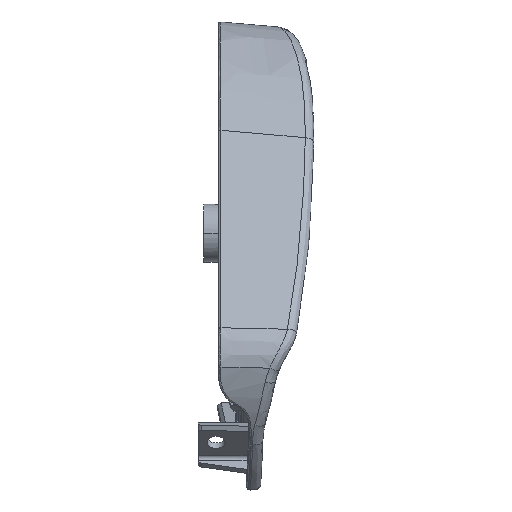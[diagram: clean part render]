
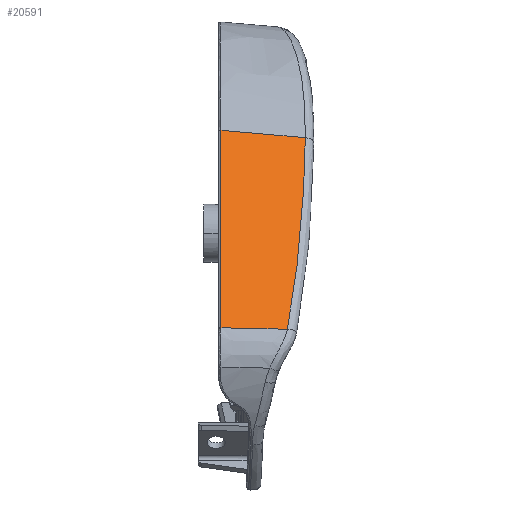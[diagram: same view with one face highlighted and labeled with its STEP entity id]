
A CAD part, left-side view. The second image highlights one B-rep face of the part: STEP entity #20591.
In plain terms, the highlighted planar face has unit normal (-0.824, -0.087, 0.56).
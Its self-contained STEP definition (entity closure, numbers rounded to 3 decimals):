
#20514=AXIS2_PLACEMENT_3D('Plane Axis2P3D',#20511,#20512,#20513) ;
#10713=CARTESIAN_POINT('Vertex',(-100.917,-971.366,608.751)) ;
#10756=CARTESIAN_POINT('Vertex',(-137.933,-971.366,554.29)) ;
#10759=CARTESIAN_POINT('Line Origine',(-113.93,-971.366,589.605)) ;
#20475=CARTESIAN_POINT('Control Point',(-100.895,-971.822,608.711)) ;
#20476=CARTESIAN_POINT('Control Point',(-100.9,-971.731,608.719)) ;
#20477=CARTESIAN_POINT('Control Point',(-100.904,-971.639,608.727)) ;
#20478=CARTESIAN_POINT('Control Point',(-100.908,-971.548,608.735)) ;
#20479=CARTESIAN_POINT('Control Point',(-100.912,-971.457,608.743)) ;
#20480=CARTESIAN_POINT('Control Point',(-100.917,-971.366,608.751)) ;
#20481=CARTESIAN_POINT('Vertex',(-100.895,-971.822,608.711)) ;
#20485=CARTESIAN_POINT('Control Point',(-99.836,-994.69,606.71)) ;
#20486=CARTESIAN_POINT('Control Point',(-100.048,-990.116,607.111)) ;
#20487=CARTESIAN_POINT('Control Point',(-100.26,-985.543,607.511)) ;
#20488=CARTESIAN_POINT('Control Point',(-100.472,-980.969,607.911)) ;
#20489=CARTESIAN_POINT('Control Point',(-100.684,-976.396,608.311)) ;
#20490=CARTESIAN_POINT('Control Point',(-100.895,-971.822,608.711)) ;
#20491=CARTESIAN_POINT('Vertex',(-99.836,-994.69,606.71)) ;
#20511=CARTESIAN_POINT('Axis2P3D Location',(-83.036,-924.773,642.311)) ;
#20517=CARTESIAN_POINT('Control Point',(-137.933,-971.366,554.29)) ;
#20518=CARTESIAN_POINT('Control Point',(-137.925,-971.457,554.288)) ;
#20519=CARTESIAN_POINT('Control Point',(-137.916,-971.548,554.286)) ;
#20520=CARTESIAN_POINT('Control Point',(-137.908,-971.639,554.284)) ;
#20521=CARTESIAN_POINT('Control Point',(-137.9,-971.731,554.282)) ;
#20522=CARTESIAN_POINT('Control Point',(-137.892,-971.822,554.28)) ;
#20523=CARTESIAN_POINT('Vertex',(-137.892,-971.822,554.28)) ;
#20527=CARTESIAN_POINT('Control Point',(-137.892,-971.822,554.28)) ;
#20528=CARTESIAN_POINT('Control Point',(-137.861,-972.155,554.272)) ;
#20529=CARTESIAN_POINT('Control Point',(-137.832,-972.48,554.265)) ;
#20530=CARTESIAN_POINT('Control Point',(-137.803,-972.795,554.258)) ;
#20531=CARTESIAN_POINT('Control Point',(-137.664,-974.326,554.225)) ;
#20532=CARTESIAN_POINT('Control Point',(-137.525,-975.856,554.192)) ;
#20533=CARTESIAN_POINT('Control Point',(-137.139,-980.089,554.1)) ;
#20534=CARTESIAN_POINT('Control Point',(-136.897,-982.752,554.042)) ;
#20535=CARTESIAN_POINT('Control Point',(-136.655,-985.414,553.984)) ;
#20536=CARTESIAN_POINT('Control Point',(-136.523,-986.857,553.953)) ;
#20537=CARTESIAN_POINT('Control Point',(-136.392,-988.3,553.921)) ;
#20538=CARTESIAN_POINT('Control Point',(-136.261,-989.743,553.89)) ;
#20539=CARTESIAN_POINT('Vertex',(-136.261,-989.743,553.89)) ;
#20543=CARTESIAN_POINT('Control Point',(-136.26,-989.744,553.89)) ;
#20544=CARTESIAN_POINT('Control Point',(-133.844,-990.398,557.344)) ;
#20545=CARTESIAN_POINT('Control Point',(-131.431,-990.988,560.802)) ;
#20546=CARTESIAN_POINT('Control Point',(-129.003,-991.52,564.292)) ;
#20547=CARTESIAN_POINT('Control Point',(-126.545,-991.999,567.833)) ;
#20548=CARTESIAN_POINT('Control Point',(-124.045,-992.43,571.444)) ;
#20549=CARTESIAN_POINT('Vertex',(-124.045,-992.43,571.444)) ;
#20553=CARTESIAN_POINT('Control Point',(-124.045,-992.43,571.444)) ;
#20554=CARTESIAN_POINT('Control Point',(-121.33,-992.898,575.366)) ;
#20555=CARTESIAN_POINT('Control Point',(-118.608,-993.303,579.308)) ;
#20556=CARTESIAN_POINT('Control Point',(-115.875,-993.644,583.276)) ;
#20557=CARTESIAN_POINT('Control Point',(-113.13,-993.925,587.271)) ;
#20558=CARTESIAN_POINT('Control Point',(-110.369,-994.147,591.299)) ;
#20559=CARTESIAN_POINT('Vertex',(-110.369,-994.146,591.299)) ;
#20563=CARTESIAN_POINT('Control Point',(-110.369,-994.147,591.299)) ;
#20564=CARTESIAN_POINT('Control Point',(-109.315,-994.231,592.835)) ;
#20565=CARTESIAN_POINT('Control Point',(-108.272,-994.307,594.359)) ;
#20566=CARTESIAN_POINT('Control Point',(-107.228,-994.374,595.884)) ;
#20567=CARTESIAN_POINT('Control Point',(-106.173,-994.434,597.427)) ;
#20568=CARTESIAN_POINT('Control Point',(-105.099,-994.488,598.999)) ;
#20569=CARTESIAN_POINT('Vertex',(-105.099,-994.485,599.)) ;
#20573=CARTESIAN_POINT('Control Point',(-105.099,-994.488,598.999)) ;
#20574=CARTESIAN_POINT('Control Point',(-104.045,-994.54,600.541)) ;
#20575=CARTESIAN_POINT('Control Point',(-102.993,-994.585,602.083)) ;
#20576=CARTESIAN_POINT('Control Point',(-101.94,-994.625,603.625)) ;
#20577=CARTESIAN_POINT('Control Point',(-100.888,-994.659,605.168)) ;
#20578=CARTESIAN_POINT('Control Point',(-99.836,-994.69,606.71)) ;
#10760=DIRECTION('Vector Direction',(-0.562,0.,-0.827)) ;
#20512=DIRECTION('Axis2P3D Direction',(0.824,0.087,-0.56)) ;
#20513=DIRECTION('Axis2P3D XDirection',(0.072,-0.996,-0.049)) ;
#10761=VECTOR('Line Direction',#10760,1.) ;
#20581=ORIENTED_EDGE('',*,*,#10763,.T.) ;
#20582=ORIENTED_EDGE('',*,*,#20525,.T.) ;
#20583=ORIENTED_EDGE('',*,*,#20541,.T.) ;
#20584=ORIENTED_EDGE('',*,*,#20551,.T.) ;
#20585=ORIENTED_EDGE('',*,*,#20561,.T.) ;
#20586=ORIENTED_EDGE('',*,*,#20571,.T.) ;
#20587=ORIENTED_EDGE('',*,*,#20579,.T.) ;
#20588=ORIENTED_EDGE('',*,*,#20493,.F.) ;
#20589=ORIENTED_EDGE('',*,*,#20483,.T.) ;
#20591=ADVANCED_FACE('01',(#20590),#20515,.F.) ;
#20516=B_SPLINE_CURVE_WITH_KNOTS('',5,(#20517,#20518,#20519,#20520,#20521,#20522),.UNSPECIFIED.,.F.,.U.,(6,6),(2.696,3.301),.UNSPECIFIED.) ;
#20526=B_SPLINE_CURVE_WITH_KNOTS('',5,(#20527,#20528,#20529,#20530,#20531,#20532,#20533,#20534,#20535,#20536,#20537,#20538),.UNSPECIFIED.,.F.,.U.,(6,3,3,6),(0.643,3.353,13.956,26.509),.UNSPECIFIED.) ;
#20542=B_SPLINE_CURVE_WITH_KNOTS('',5,(#20543,#20544,#20545,#20546,#20547,#20548),.UNSPECIFIED.,.F.,.U.,(6,6),(0.,31.345),.UNSPECIFIED.) ;
#20552=B_SPLINE_CURVE_WITH_KNOTS('',5,(#20553,#20554,#20555,#20556,#20557,#20558),.UNSPECIFIED.,.F.,.U.,(6,6),(0.,34.045),.UNSPECIFIED.) ;
#20562=B_SPLINE_CURVE_WITH_KNOTS('',5,(#20563,#20564,#20565,#20566,#20567,#20568),.UNSPECIFIED.,.F.,.U.,(6,6),(0.,12.988),.UNSPECIFIED.) ;
#20572=B_SPLINE_CURVE_WITH_KNOTS('',5,(#20573,#20574,#20575,#20576,#20577,#20578),.UNSPECIFIED.,.F.,.U.,(6,6),(0.,12.729),.UNSPECIFIED.) ;
#10763=EDGE_CURVE('',#10714,#10757,#10762,.T.) ;
#20483=EDGE_CURVE('',#20482,#10714,#20474,.T.) ;
#20493=EDGE_CURVE('',#20482,#20492,#20484,.F.) ;
#20525=EDGE_CURVE('',#10757,#20524,#20516,.T.) ;
#20541=EDGE_CURVE('',#20524,#20540,#20526,.T.) ;
#20551=EDGE_CURVE('',#20540,#20550,#20542,.T.) ;
#20561=EDGE_CURVE('',#20550,#20560,#20552,.T.) ;
#20571=EDGE_CURVE('',#20560,#20570,#20562,.T.) ;
#20579=EDGE_CURVE('',#20570,#20492,#20572,.T.) ;
#20580=EDGE_LOOP('',(#20581,#20582,#20583,#20584,#20585,#20586,#20587,#20588,#20589)) ;
#20590=FACE_OUTER_BOUND('',#20580,.T.) ;
#10762=LINE('Line',#10759,#10761) ;
#20515=PLANE('',#20514) ;
#10714=VERTEX_POINT('',#10713) ;
#10757=VERTEX_POINT('',#10756) ;
#20482=VERTEX_POINT('',#20481) ;
#20492=VERTEX_POINT('',#20491) ;
#20524=VERTEX_POINT('',#20523) ;
#20540=VERTEX_POINT('',#20539) ;
#20550=VERTEX_POINT('',#20549) ;
#20560=VERTEX_POINT('',#20559) ;
#20570=VERTEX_POINT('',#20569) ;
#20474=(BOUNDED_CURVE()B_SPLINE_CURVE(5,(#20475,#20476,#20477,#20478,#20479,#20480),.UNSPECIFIED.,.F.,.U.)B_SPLINE_CURVE_WITH_KNOTS((6,6),(20.293,20.698),.UNSPECIFIED.)CURVE()GEOMETRIC_REPRESENTATION_ITEM()RATIONAL_B_SPLINE_CURVE((1.,1.,1.,1.,1.,1.))REPRESENTATION_ITEM('')) ;
#20484=(BOUNDED_CURVE()B_SPLINE_CURVE(5,(#20485,#20486,#20487,#20488,#20489,#20490),.UNSPECIFIED.,.F.,.U.)B_SPLINE_CURVE_WITH_KNOTS((6,6),(0.,20.293),.UNSPECIFIED.)CURVE()GEOMETRIC_REPRESENTATION_ITEM()RATIONAL_B_SPLINE_CURVE((1.,1.,1.,1.,1.,1.))REPRESENTATION_ITEM('')) ;
